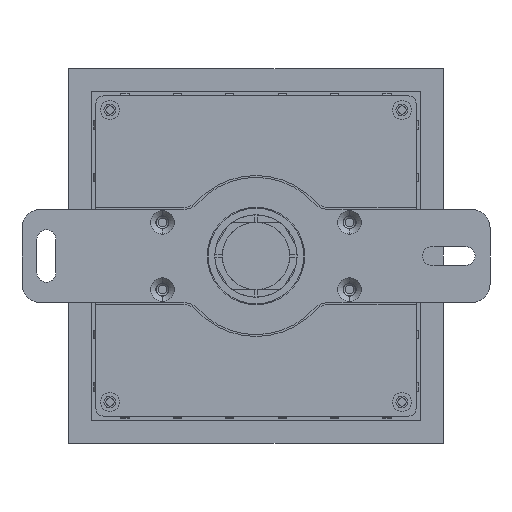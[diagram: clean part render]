
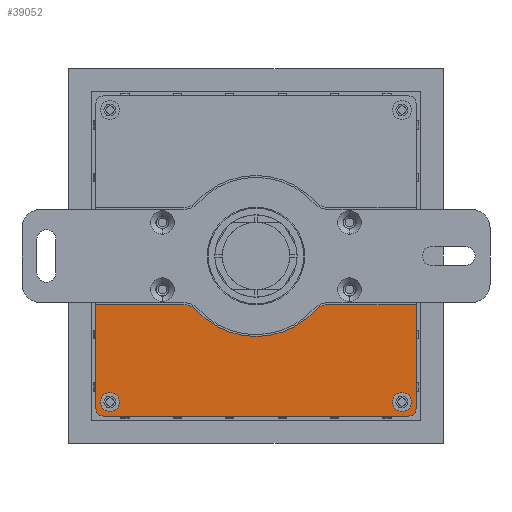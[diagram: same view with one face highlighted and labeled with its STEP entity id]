
A CAD part, front view. The second image highlights one B-rep face of the part: STEP entity #39052.
In plain terms, the highlighted planar face has unit normal (0, -1, 0).
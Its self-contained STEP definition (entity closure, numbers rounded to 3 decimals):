
#102 = DIRECTION ( 'NONE',  ( 1., 0., 0. ) ) ;
#123 = CARTESIAN_POINT ( 'NONE',  ( 39., -1.5, -41.5 ) ) ;
#1412 = DIRECTION ( 'NONE',  ( 0., -1., 0. ) ) ;
#1419 = DIRECTION ( 'NONE',  ( 0., 0., -1. ) ) ;
#1860 = EDGE_LOOP ( 'NONE', ( #33792, #52330 ) ) ;
#2763 = CARTESIAN_POINT ( 'NONE',  ( 19.229, -1.5, -13. ) ) ;
#3042 = CIRCLE ( 'NONE', #34403, 4.5 ) ;
#3620 = VERTEX_POINT ( 'NONE', #2763 ) ;
#5934 = EDGE_CURVE ( 'NONE', #60969, #70994, #20775, .T. ) ;
#6271 = DIRECTION ( 'NONE',  ( 0., 0., -1. ) ) ;
#6425 = CIRCLE ( 'NONE', #85294, 2.5 ) ;
#6919 = ORIENTED_EDGE ( 'NONE', *, *, #26736, .F. ) ;
#7321 = DIRECTION ( 'NONE',  ( 0., -1., 0. ) ) ;
#7348 = DIRECTION ( 'NONE',  ( 0., 1., 0. ) ) ;
#8249 = CARTESIAN_POINT ( 'NONE',  ( 40.75, -1.5, -42.75 ) ) ;
#8501 = VECTOR ( 'NONE', #59545, 1000. ) ;
#9425 = CARTESIAN_POINT ( 'NONE',  ( 0., -1.5, 0. ) ) ;
#11323 = VERTEX_POINT ( 'NONE', #78133 ) ;
#12208 = VERTEX_POINT ( 'NONE', #34700 ) ;
#12336 = ORIENTED_EDGE ( 'NONE', *, *, #40013, .F. ) ;
#13004 = DIRECTION ( 'NONE',  ( 0., -1., 0. ) ) ;
#13431 = VECTOR ( 'NONE', #67215, 1000. ) ;
#14452 = VERTEX_POINT ( 'NONE', #54645 ) ;
#14871 = CIRCLE ( 'NONE', #46252, 21.5 ) ;
#14992 = EDGE_CURVE ( 'NONE', #87026, #12208, #57637, .T. ) ;
#15164 = AXIS2_PLACEMENT_3D ( 'NONE', #16623, #65089, #23586 ) ;
#15417 = ORIENTED_EDGE ( 'NONE', *, *, #25531, .F. ) ;
#15490 = VERTEX_POINT ( 'NONE', #52253 ) ;
#16623 = CARTESIAN_POINT ( 'NONE',  ( -40.75, -1.5, -40.75 ) ) ;
#17726 = EDGE_CURVE ( 'NONE', #14452, #15490, #40913, .T. ) ;
#18754 = CARTESIAN_POINT ( 'NONE',  ( 0., -1.5, -13. ) ) ;
#18942 = DIRECTION ( 'NONE',  ( 0., 0., -1. ) ) ;
#19034 = CARTESIAN_POINT ( 'NONE',  ( 15.901, -1.5, -14.471 ) ) ;
#19040 = AXIS2_PLACEMENT_3D ( 'NONE', #72935, #72815, #72745 ) ;
#20775 = CIRCLE ( 'NONE', #19040, 21.5 ) ;
#22569 = FACE_BOUND ( 'NONE', #1860, .T. ) ;
#22707 = ORIENTED_EDGE ( 'NONE', *, *, #62700, .F. ) ;
#22866 = ORIENTED_EDGE ( 'NONE', *, *, #5934, .F. ) ;
#23586 = DIRECTION ( 'NONE',  ( 0., 0., -1. ) ) ;
#24735 = FACE_OUTER_BOUND ( 'NONE', #68237, .T. ) ;
#24988 = EDGE_CURVE ( 'NONE', #58350, #81034, #52393, .T. ) ;
#25188 = VERTEX_POINT ( 'NONE', #28995 ) ;
#25531 = EDGE_CURVE ( 'NONE', #25188, #73072, #31723, .T. ) ;
#26736 = EDGE_CURVE ( 'NONE', #87182, #38061, #66222, .T. ) ;
#26926 = VECTOR ( 'NONE', #102, 1000. ) ;
#27691 = AXIS2_PLACEMENT_3D ( 'NONE', #48776, #7321, #55740 ) ;
#28440 = EDGE_CURVE ( 'NONE', #12208, #87026, #6425, .T. ) ;
#28995 = CARTESIAN_POINT ( 'NONE',  ( 42.75, -1.5, -13. ) ) ;
#31723 = LINE ( 'NONE', #46224, #84838 ) ;
#32496 = CARTESIAN_POINT ( 'NONE',  ( -42.75, -1.5, -40.75 ) ) ;
#33292 = CARTESIAN_POINT ( 'NONE',  ( 39., -1.5, -39. ) ) ;
#33792 = ORIENTED_EDGE ( 'NONE', *, *, #17726, .F. ) ;
#34403 = AXIS2_PLACEMENT_3D ( 'NONE', #35437, #83930, #42382 ) ;
#34700 = CARTESIAN_POINT ( 'NONE',  ( 39., -1.5, -36.5 ) ) ;
#35437 = CARTESIAN_POINT ( 'NONE',  ( -19.229, -1.5, -17.5 ) ) ;
#36083 = ORIENTED_EDGE ( 'NONE', *, *, #24988, .F. ) ;
#37222 = DIRECTION ( 'NONE',  ( 0., 1., 0. ) ) ;
#37792 = ORIENTED_EDGE ( 'NONE', *, *, #86592, .F. ) ;
#38061 = VERTEX_POINT ( 'NONE', #51060 ) ;
#38733 = AXIS2_PLACEMENT_3D ( 'NONE', #84369, #42826, #1419 ) ;
#38790 = CIRCLE ( 'NONE', #89285, 2. ) ;
#39052 = ADVANCED_FACE ( 'NONE', ( #22569, #59445, #24735 ), #64798, .F. ) ;
#39086 = CARTESIAN_POINT ( 'NONE',  ( 42.75, -1.5, -40.75 ) ) ;
#40013 = EDGE_CURVE ( 'NONE', #70994, #79323, #14871, .T. ) ;
#40207 = DIRECTION ( 'NONE',  ( 0., 0., -1. ) ) ;
#40913 = CIRCLE ( 'NONE', #49321, 2.5 ) ;
#42382 = DIRECTION ( 'NONE',  ( 0., 0., -1. ) ) ;
#42819 = CARTESIAN_POINT ( 'NONE',  ( 0., -1.5, 0. ) ) ;
#42826 = DIRECTION ( 'NONE',  ( 0., 1., 0. ) ) ;
#45533 = CIRCLE ( 'NONE', #15164, 2. ) ;
#46224 = CARTESIAN_POINT ( 'NONE',  ( 42.75, -1.5, 42.75 ) ) ;
#46252 = AXIS2_PLACEMENT_3D ( 'NONE', #42819, #1412, #49801 ) ;
#47720 = DIRECTION ( 'NONE',  ( 0., -1., 0. ) ) ;
#48505 = CARTESIAN_POINT ( 'NONE',  ( 0., -1.5, -13. ) ) ;
#48776 = CARTESIAN_POINT ( 'NONE',  ( 39., -1.5, -39. ) ) ;
#48812 = CARTESIAN_POINT ( 'NONE',  ( 40.75, -1.5, -40.75 ) ) ;
#48989 = ORIENTED_EDGE ( 'NONE', *, *, #62714, .F. ) ;
#49321 = AXIS2_PLACEMENT_3D ( 'NONE', #89227, #47720, #6271 ) ;
#49801 = DIRECTION ( 'NONE',  ( 0., 0., -1. ) ) ;
#51060 = CARTESIAN_POINT ( 'NONE',  ( -40.75, -1.5, -42.75 ) ) ;
#51394 = AXIS2_PLACEMENT_3D ( 'NONE', #9425, #37222, #85695 ) ;
#52253 = CARTESIAN_POINT ( 'NONE',  ( -39., -1.5, -36.5 ) ) ;
#52330 = ORIENTED_EDGE ( 'NONE', *, *, #80868, .F. ) ;
#52393 = LINE ( 'NONE', #74175, #13431 ) ;
#52442 = ORIENTED_EDGE ( 'NONE', *, *, #80417, .F. ) ;
#54444 = CARTESIAN_POINT ( 'NONE',  ( -39., -1.5, -39. ) ) ;
#54645 = CARTESIAN_POINT ( 'NONE',  ( -39., -1.5, -41.5 ) ) ;
#55740 = DIRECTION ( 'NONE',  ( 0., 0., -1. ) ) ;
#55766 = DIRECTION ( 'NONE',  ( 0., 0., -1. ) ) ;
#56888 = CARTESIAN_POINT ( 'NONE',  ( 42.75, -1.5, -42.75 ) ) ;
#57637 = CIRCLE ( 'NONE', #27691, 2.5 ) ;
#58350 = VERTEX_POINT ( 'NONE', #32496 ) ;
#58367 = CARTESIAN_POINT ( 'NONE',  ( 0., -1.5, -21.5 ) ) ;
#59434 = LINE ( 'NONE', #48505, #26926 ) ;
#59445 = FACE_BOUND ( 'NONE', #68476, .T. ) ;
#59545 = DIRECTION ( 'NONE',  ( 1., 0., 0. ) ) ;
#60452 = EDGE_CURVE ( 'NONE', #3620, #25188, #77780, .T. ) ;
#60969 = VERTEX_POINT ( 'NONE', #86107 ) ;
#61458 = DIRECTION ( 'NONE',  ( 0., 0., -1. ) ) ;
#62700 = EDGE_CURVE ( 'NONE', #81034, #11323, #59434, .T. ) ;
#62714 = EDGE_CURVE ( 'NONE', #73072, #87182, #38790, .T. ) ;
#64655 = ORIENTED_EDGE ( 'NONE', *, *, #60452, .F. ) ;
#64798 = PLANE ( 'NONE',  #51394 ) ;
#65089 = DIRECTION ( 'NONE',  ( 0., 1., 0. ) ) ;
#66222 = LINE ( 'NONE', #56888, #82490 ) ;
#67215 = DIRECTION ( 'NONE',  ( 0., 0., 1. ) ) ;
#68237 = EDGE_LOOP ( 'NONE', ( #64655, #37792, #12336, #22866, #52442, #22707, #36083, #76432, #6919, #48989, #15417 ) ) ;
#68292 = ORIENTED_EDGE ( 'NONE', *, *, #28440, .F. ) ;
#68476 = EDGE_LOOP ( 'NONE', ( #86168, #68292 ) ) ;
#68520 = EDGE_CURVE ( 'NONE', #38061, #58350, #45533, .T. ) ;
#70528 = CIRCLE ( 'NONE', #38733, 4.5 ) ;
#70994 = VERTEX_POINT ( 'NONE', #58367 ) ;
#72745 = DIRECTION ( 'NONE',  ( 0., 0., -1. ) ) ;
#72815 = DIRECTION ( 'NONE',  ( 0., -1., 0. ) ) ;
#72935 = CARTESIAN_POINT ( 'NONE',  ( 0., -1.5, 0. ) ) ;
#73072 = VERTEX_POINT ( 'NONE', #39086 ) ;
#74175 = CARTESIAN_POINT ( 'NONE',  ( -42.75, -1.5, -42.75 ) ) ;
#76432 = ORIENTED_EDGE ( 'NONE', *, *, #68520, .F. ) ;
#77726 = DIRECTION ( 'NONE',  ( -1., 0., 0. ) ) ;
#77780 = LINE ( 'NONE', #18754, #8501 ) ;
#78133 = CARTESIAN_POINT ( 'NONE',  ( -19.229, -1.5, -13. ) ) ;
#79323 = VERTEX_POINT ( 'NONE', #19034 ) ;
#79596 = CARTESIAN_POINT ( 'NONE',  ( -42.75, -1.5, -13. ) ) ;
#80417 = EDGE_CURVE ( 'NONE', #11323, #60969, #3042, .T. ) ;
#80868 = EDGE_CURVE ( 'NONE', #15490, #14452, #83143, .T. ) ;
#81034 = VERTEX_POINT ( 'NONE', #79596 ) ;
#81731 = DIRECTION ( 'NONE',  ( 0., -1., 0. ) ) ;
#82490 = VECTOR ( 'NONE', #77726, 1000. ) ;
#83143 = CIRCLE ( 'NONE', #88403, 2.5 ) ;
#83930 = DIRECTION ( 'NONE',  ( 0., 1., 0. ) ) ;
#84369 = CARTESIAN_POINT ( 'NONE',  ( 19.229, -1.5, -17.5 ) ) ;
#84838 = VECTOR ( 'NONE', #18942, 1000. ) ;
#85294 = AXIS2_PLACEMENT_3D ( 'NONE', #33292, #81731, #40207 ) ;
#85695 = DIRECTION ( 'NONE',  ( 0., 0., 1. ) ) ;
#86107 = CARTESIAN_POINT ( 'NONE',  ( -15.901, -1.5, -14.471 ) ) ;
#86168 = ORIENTED_EDGE ( 'NONE', *, *, #14992, .F. ) ;
#86592 = EDGE_CURVE ( 'NONE', #79323, #3620, #70528, .T. ) ;
#87026 = VERTEX_POINT ( 'NONE', #123 ) ;
#87182 = VERTEX_POINT ( 'NONE', #8249 ) ;
#88403 = AXIS2_PLACEMENT_3D ( 'NONE', #54444, #13004, #61458 ) ;
#89227 = CARTESIAN_POINT ( 'NONE',  ( -39., -1.5, -39. ) ) ;
#89285 = AXIS2_PLACEMENT_3D ( 'NONE', #48812, #7348, #55766 ) ;
